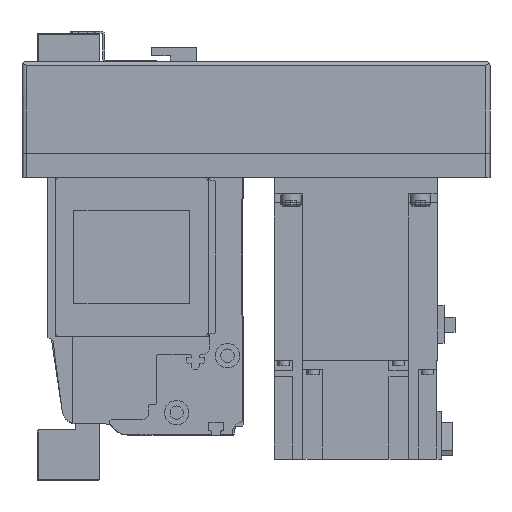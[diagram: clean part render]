
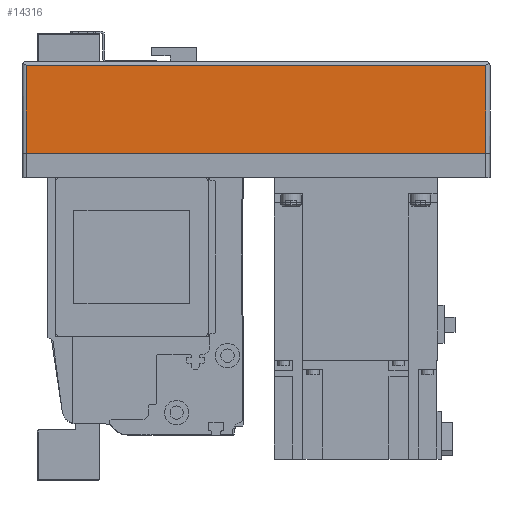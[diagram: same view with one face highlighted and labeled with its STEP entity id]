
A CAD part, left-side view. The second image highlights one B-rep face of the part: STEP entity #14316.
In plain terms, the highlighted planar face has unit normal (-1, 0, 0) as drawn and (0, -1, 0) by its records, which use the part's own axes.
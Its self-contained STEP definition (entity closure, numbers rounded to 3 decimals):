
#2461=ORIENTED_EDGE('',*,*,#5858,.F.);
#2462=ORIENTED_EDGE('',*,*,#5861,.T.);
#2463=ORIENTED_EDGE('',*,*,#5862,.T.);
#2464=ORIENTED_EDGE('',*,*,#5863,.F.);
#5858=EDGE_CURVE('',#7687,#7688,#9189,.T.);
#5861=EDGE_CURVE('',#7687,#7690,#9191,.T.);
#5862=EDGE_CURVE('',#7690,#7691,#9192,.T.);
#5863=EDGE_CURVE('',#7688,#7691,#9193,.T.);
#7687=VERTEX_POINT('',#22489);
#7688=VERTEX_POINT('',#22491);
#7690=VERTEX_POINT('',#22497);
#7691=VERTEX_POINT('',#22499);
#9189=LINE('',#22490,#10502);
#9191=LINE('',#22496,#10504);
#9192=LINE('',#22498,#10505);
#9193=LINE('',#22500,#10506);
#10502=VECTOR('',#17932,1000.);
#10504=VECTOR('',#17938,1000.);
#10505=VECTOR('',#17939,1000.);
#10506=VECTOR('',#17940,1000.);
#11626=EDGE_LOOP('',(#2461,#2462,#2463,#2464));
#12749=FACE_BOUND('',#11626,.T.);
#13722=PLANE('',#15372);
#14316=ADVANCED_FACE('',(#12749),#13722,.T.);
#15372=AXIS2_PLACEMENT_3D('',#22495,#17936,#17937);
#17932=DIRECTION('',(0.,0.,1.));
#17936=DIRECTION('',(0.,-1.,0.));
#17937=DIRECTION('',(0.,0.,-1.));
#17938=DIRECTION('',(1.,0.,0.));
#17939=DIRECTION('',(0.,0.,1.));
#17940=DIRECTION('',(1.,0.,0.));
#22489=CARTESIAN_POINT('',(-228.,-54.,-55.));
#22490=CARTESIAN_POINT('',(-228.,-54.,-57.));
#22491=CARTESIAN_POINT('',(-228.,-54.,-12.));
#22495=CARTESIAN_POINT('',(-228.,-54.,-57.));
#22496=CARTESIAN_POINT('',(-230.,-54.,-55.));
#22497=CARTESIAN_POINT('',(-2.,-54.,-55.));
#22498=CARTESIAN_POINT('',(-2.,-54.,-57.));
#22499=CARTESIAN_POINT('',(-2.,-54.,-12.));
#22500=CARTESIAN_POINT('',(-228.,-54.,-12.));
